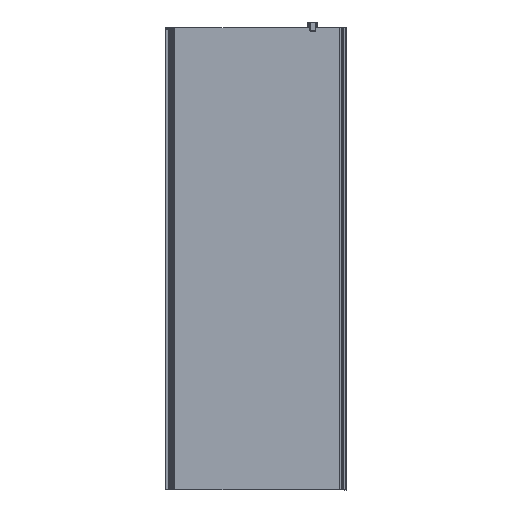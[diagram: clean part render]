
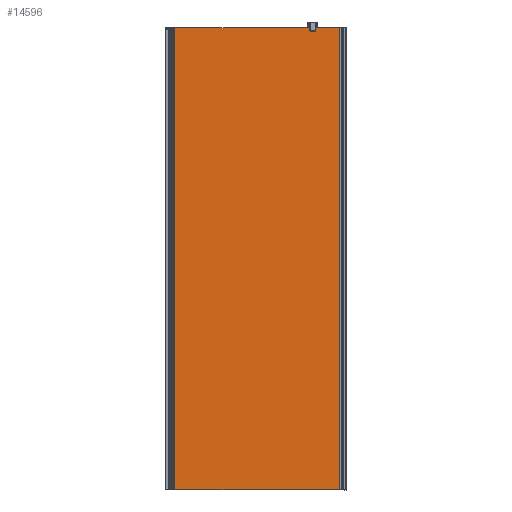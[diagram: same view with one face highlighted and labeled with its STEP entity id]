
A CAD part, top view. The second image highlights one B-rep face of the part: STEP entity #14596.
In plain terms, the highlighted planar face has unit normal (0, 0, 1).
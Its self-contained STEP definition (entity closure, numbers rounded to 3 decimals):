
#1533=FACE_OUTER_BOUND('',#2400,.T.);
#2400=EDGE_LOOP('',(#10469,#10470,#10471,#10472));
#3443=LINE('',#22315,#4846);
#3444=LINE('',#22318,#4847);
#3445=LINE('',#22320,#4848);
#3446=LINE('',#22321,#4849);
#4846=VECTOR('',#17780,10.);
#4847=VECTOR('',#17783,10.);
#4848=VECTOR('',#17784,10.);
#4849=VECTOR('',#17785,10.);
#6238=VERTEX_POINT('',#22311);
#6239=VERTEX_POINT('',#22313);
#6240=VERTEX_POINT('',#22317);
#6241=VERTEX_POINT('',#22319);
#7795=EDGE_CURVE('',#6238,#6239,#3443,.T.);
#7796=EDGE_CURVE('',#6240,#6238,#3444,.T.);
#7797=EDGE_CURVE('',#6241,#6239,#3445,.T.);
#7798=EDGE_CURVE('',#6240,#6241,#3446,.T.);
#10469=ORIENTED_EDGE('',*,*,#7796,.T.);
#10470=ORIENTED_EDGE('',*,*,#7795,.T.);
#10471=ORIENTED_EDGE('',*,*,#7797,.F.);
#10472=ORIENTED_EDGE('',*,*,#7798,.F.);
#14146=PLANE('',#15628);
#14596=ADVANCED_FACE('',(#1533),#14146,.T.);
#15628=AXIS2_PLACEMENT_3D('',#22316,#17781,#17782);
#17780=DIRECTION('',(0.,1.,0.));
#17781=DIRECTION('center_axis',(0.,0.,
1.));
#17782=DIRECTION('ref_axis',(1.,0.,0.));
#17783=DIRECTION('',(1.,0.,0.));
#17784=DIRECTION('',(1.,0.,0.));
#17785=DIRECTION('',(0.,1.,0.));
#22311=CARTESIAN_POINT('',(16.75,0.,14.3));
#22313=CARTESIAN_POINT('',(16.75,2000.,14.3));
#22315=CARTESIAN_POINT('',(16.75,0.,14.3));
#22316=CARTESIAN_POINT('Origin',(-763.25,0.,14.3));
#22317=CARTESIAN_POINT('',(-763.25,0.,14.3));
#22318=CARTESIAN_POINT('',(-763.25,0.,14.3));
#22319=CARTESIAN_POINT('',(-763.25,2000.,14.3));
#22320=CARTESIAN_POINT('',(-763.25,2000.,14.3));
#22321=CARTESIAN_POINT('',(-763.25,0.,14.3));
